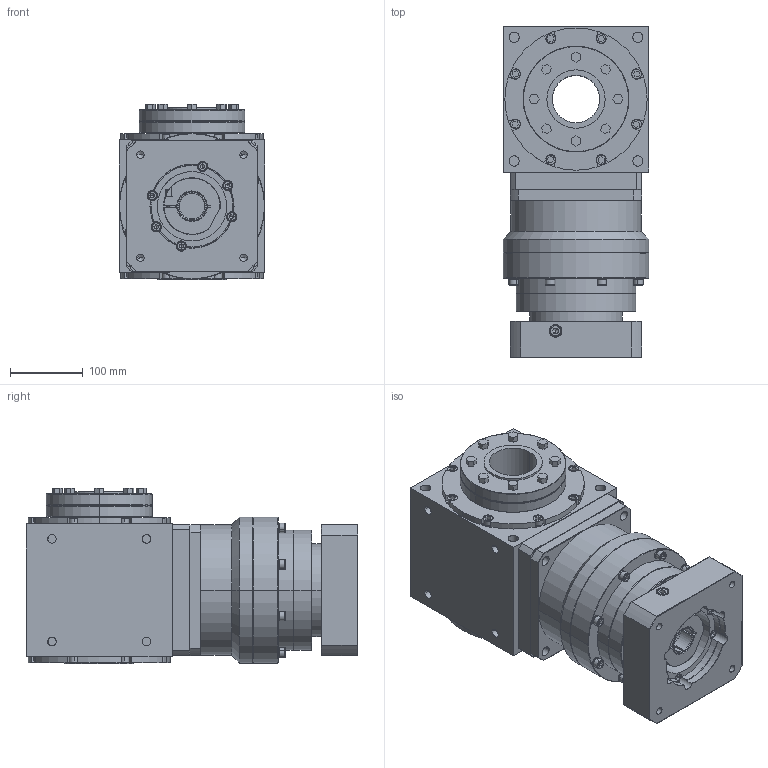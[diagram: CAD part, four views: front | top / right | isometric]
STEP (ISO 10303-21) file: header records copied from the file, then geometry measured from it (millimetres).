
FILE_DESCRIPTION (( 'STEP AP203' ), '1' );
FILE_NAME ('AAW200AS-L2-RFHP 35-114.3-200-M12.STEP', '2024-12-24T09:08:06', ( '' ), ( '' ), 'SwSTEP 2.0', 'SolidWorks 2021', '' );
FILE_SCHEMA (( 'CONFIG_CONTROL_DESIGN' ));
Length unit declared in the file: millimetre
Products named in the file (3): AAW200AS-L2-RFHP 35-114.3-200-M12; KS180L2-114.3-35-83-M12-200俋倛芞; AAW200AS-RFHP
Assembly tree (2 placements, depth 2):
  AAW200AS-L2-RFHP 35-114.3-200-M12
    AAW200AS-RFHP
    KS180L2-114.3-35-83-M12-200俋倛芞
Bounding box: 200 x 454.5 x 241 mm (x, y, z)
Volume: 14028735.1 mm3; surface area: 852214.4 mm2
Topology: 45 solids, 45 shells, 1455 faces, 3484 edges, 2182 vertices
Faces by surface type: plane 743, cylinder 494, cone 168, bspline 38, torus 12
Entity records: 43155 total; most frequent: CARTESIAN_POINT 8806, DIRECTION 7414, ORIENTED_EDGE 6848, EDGE_CURVE 3424, AXIS2_PLACEMENT_3D 2786, VERTEX_POINT 2182, LINE 1842, VECTOR 1842
